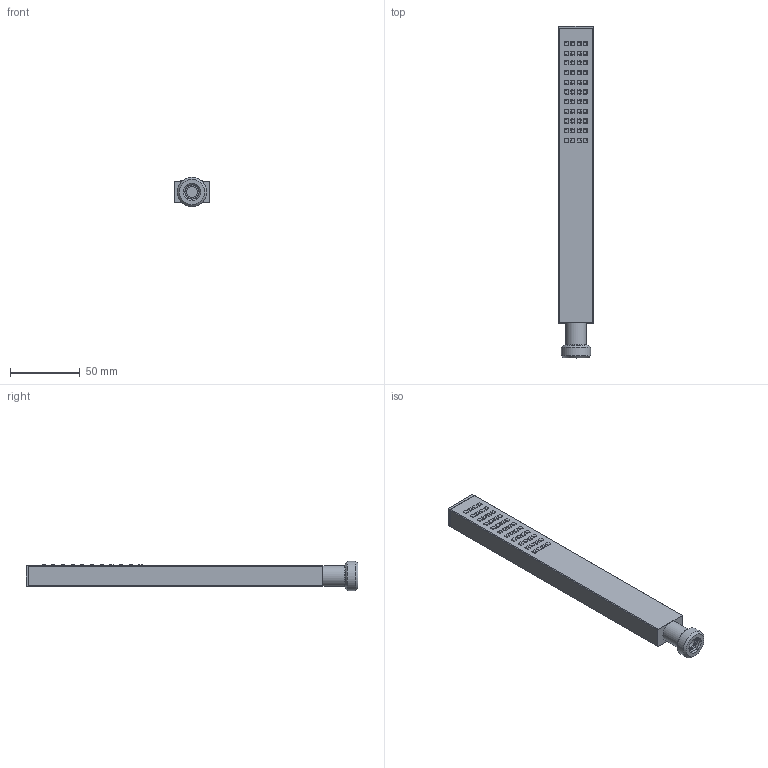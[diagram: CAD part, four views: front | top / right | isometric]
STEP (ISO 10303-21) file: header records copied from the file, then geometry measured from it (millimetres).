
FILE_DESCRIPTION(('STEP AP214'),'2;1');
FILE_NAME('DIS_3D_9418.stp','2021-12-03T12:09:25',(''),(''),'2015.2.119','THINKDESIGN','');
FILE_SCHEMA(('AUTOMOTIVE_DESIGN'));
Length unit declared in the file: millimetre
Products named in the file (1): top
Bounding box: 25 x 237.2 x 20.95 mm (x, y, z)
Volume: 20418.5 mm3; surface area: 36743.6 mm2
Topology: 47 solids, 47 shells, 675 faces, 1736 edges, 1162 vertices
Faces by surface type: plane 301, cylinder 192, bspline 182
Full cylindrical faces by diameter (mm): 7.8 x1, 9.4 x1, 10.75 x1, 12 x1, 12.2 x1, 15 x1, 20.955 x1
Entity records: 33589 total; most frequent: CARTESIAN_POINT 4926, ORIENTED_EDGE 3472, DIRECTION 3124, EDGE_CURVE 1736, STYLED_ITEM 1397, PRESENTATION_STYLE_ASSIGNMENT 1352, SURFACE_STYLE_USAGE 1352, SURFACE_SIDE_STYLE 1352
